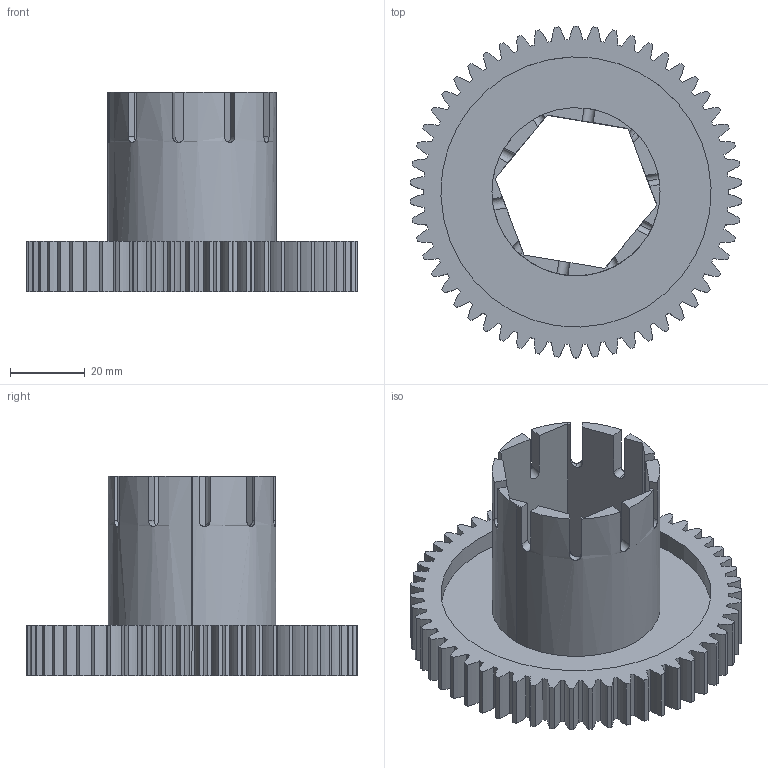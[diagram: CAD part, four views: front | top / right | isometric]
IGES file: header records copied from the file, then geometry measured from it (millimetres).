
Global section: file name: C:\Documents and Settings\Administrator\Desktop\Transfer Temp\fpgear4.igs; native system: AutoDesk Inventor R2.0 ; preprocessor: AutoDesk Inventor Iges Exporter R2.0; author: No Author specified; organization: No Organization specified; date: 20011228.213912; units: inch
Bounding box: 88.81 x 88.9 x 53.54 mm (x, y, z)
Surface area: 31140.5 mm2 (no closed solid volume)
Topology: 0 solids, 0 shells, 277 faces, 1638 edges, 1638 vertices
Faces by surface type: revolution 237, bspline 40
